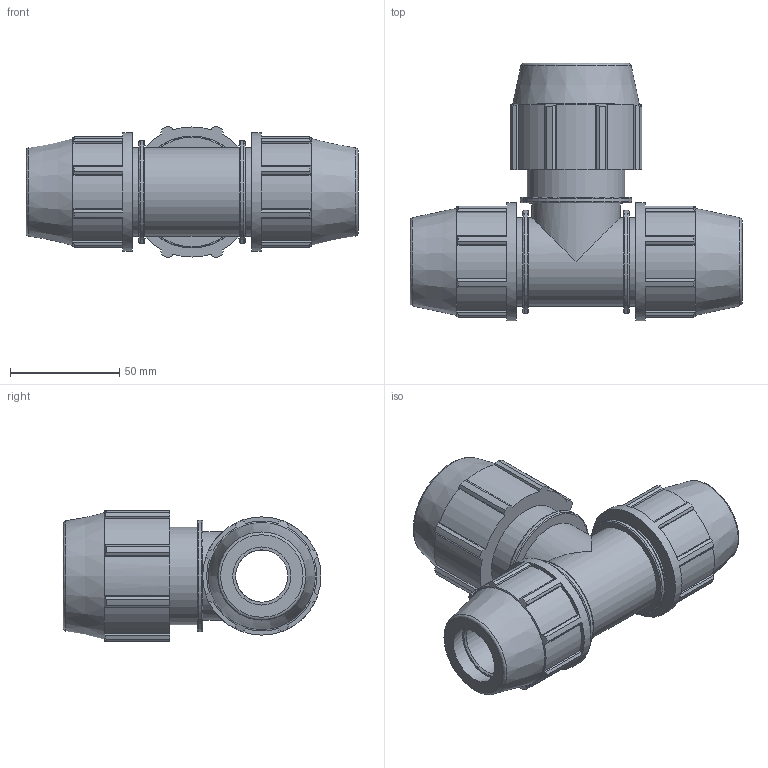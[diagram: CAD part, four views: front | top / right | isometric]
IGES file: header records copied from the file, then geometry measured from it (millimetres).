
Global section: file name: 0774M0007010.ipt; native system: Autodesk Inventor 2019; preprocessor: unknown; author: KIM; date: 20210826.124909; units: inch
Bounding box: 151.89 x 117.98 x 60.23 mm (x, y, z)
Volume: 273475.9 mm3; surface area: 65335.6 mm2
Topology: 1 solids, 1 shells, 198 faces, 563 edges, 382 vertices
Faces by surface type: plane 130, cylinder 42, revolution 20, cone 6
Full cylindrical faces by diameter (mm): 40.576 x4, 44.806 x1, 47.069 x2, 51.206 x1, 54.102 x2
